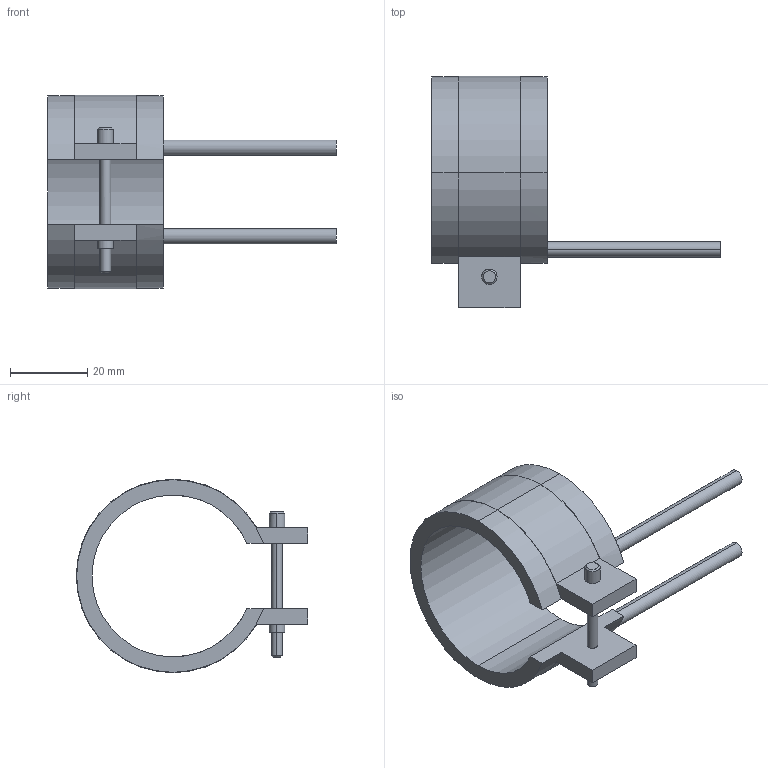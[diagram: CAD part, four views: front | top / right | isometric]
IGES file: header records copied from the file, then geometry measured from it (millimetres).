
Start section: START RECORD GO HERE.
Global section: file name: 14042030.igs; native system: DASSAULT SYSTEMES CATIA V5 R20 - www.3ds.com; preprocessor: CATIA Version 5 Release 20 ; author: Utente; organization: NB04-ASUS; date: 20210331.140413; units: millimetre
Bounding box: 75 x 60.1 x 50.2 mm (x, y, z)
Surface area: 11311.3 mm2 (no closed solid volume)
Topology: 0 solids, 0 shells, 45 faces, 232 edges, 232 vertices
Faces by surface type: revolution 28, plane 17
